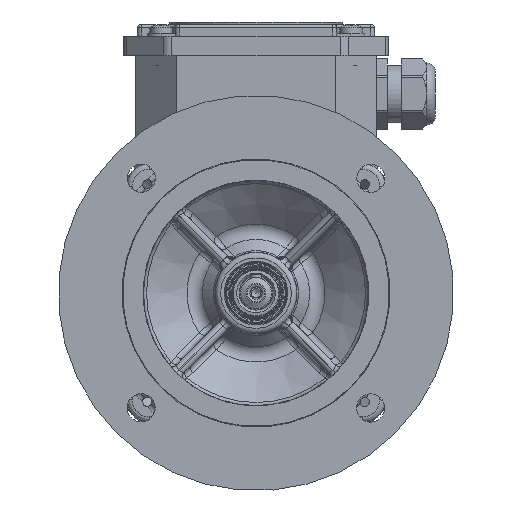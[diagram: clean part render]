
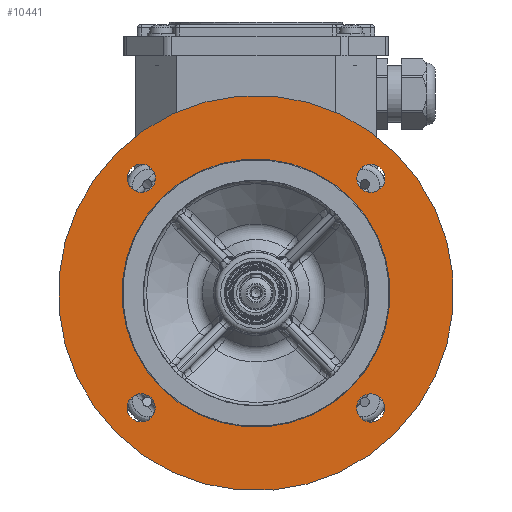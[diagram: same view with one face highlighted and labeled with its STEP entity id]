
A CAD part, front view. The second image highlights one B-rep face of the part: STEP entity #10441.
In plain terms, the highlighted planar face has unit normal (0, -1, 0).
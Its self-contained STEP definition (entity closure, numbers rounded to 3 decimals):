
#5977=FACE_BOUND('',#17310,.T.);
#5978=FACE_BOUND('',#17311,.T.);
#5979=FACE_BOUND('',#17312,.T.);
#5980=FACE_BOUND('',#17313,.T.);
#5981=FACE_BOUND('',#17314,.T.);
#5982=FACE_BOUND('',#17315,.T.);
#10441=ADVANCED_FACE('',(#5977,#5978,#5979,#5980,#5981,#5982),#12485,.T.);
#12485=PLANE('',#57015);
#17310=EDGE_LOOP('',(#27722));
#17311=EDGE_LOOP('',(#27723));
#17312=EDGE_LOOP('',(#27724));
#17313=EDGE_LOOP('',(#27725));
#17314=EDGE_LOOP('',(#27726));
#17315=EDGE_LOOP('',(#27727));
#27722=ORIENTED_EDGE('',*,*,#42033,.F.);
#27723=ORIENTED_EDGE('',*,*,#42034,.F.);
#27724=ORIENTED_EDGE('',*,*,#42035,.F.);
#27725=ORIENTED_EDGE('',*,*,#42036,.F.);
#27726=ORIENTED_EDGE('',*,*,#42037,.T.);
#27727=ORIENTED_EDGE('',*,*,#42038,.T.);
#35922=VERTEX_POINT('',#85747);
#35923=VERTEX_POINT('',#85749);
#35924=VERTEX_POINT('',#85751);
#35925=VERTEX_POINT('',#85753);
#35926=VERTEX_POINT('',#85755);
#35927=VERTEX_POINT('',#85757);
#42033=EDGE_CURVE('',#35922,#35922,#52163,.T.);
#42034=EDGE_CURVE('',#35923,#35923,#52164,.T.);
#42035=EDGE_CURVE('',#35924,#35924,#52165,.T.);
#42036=EDGE_CURVE('',#35925,#35925,#52166,.T.);
#42037=EDGE_CURVE('',#35926,#35926,#52167,.T.);
#42038=EDGE_CURVE('',#35927,#35927,#52168,.T.);
#52163=CIRCLE('',#57009,5.);
#52164=CIRCLE('',#57010,5.);
#52165=CIRCLE('',#57011,5.);
#52166=CIRCLE('',#57012,5.);
#52167=CIRCLE('',#57013,47.5);
#52168=CIRCLE('',#57014,70.);
#57009=AXIS2_PLACEMENT_3D('',#85746,#67525,#67526);
#57010=AXIS2_PLACEMENT_3D('',#85748,#67527,#67528);
#57011=AXIS2_PLACEMENT_3D('',#85750,#67529,#67530);
#57012=AXIS2_PLACEMENT_3D('',#85752,#67531,#67532);
#57013=AXIS2_PLACEMENT_3D('',#85754,#67533,#67534);
#57014=AXIS2_PLACEMENT_3D('',#85756,#67535,#67536);
#57015=AXIS2_PLACEMENT_3D('',#85758,#67537,#67538);
#67525=DIRECTION('',(0.,-1.,0.));
#67526=DIRECTION('',(0.707,0.,-0.708));
#67527=DIRECTION('',(0.,-1.,0.));
#67528=DIRECTION('',(0.708,0.,0.707));
#67529=DIRECTION('',(0.,-1.,0.));
#67530=DIRECTION('',(-0.707,0.,0.708));
#67531=DIRECTION('',(0.,-1.,0.));
#67532=DIRECTION('',(-0.708,0.,-0.707));
#67533=DIRECTION('',(0.,1.,0.));
#67534=DIRECTION('',(0.707,0.,-0.708));
#67535=DIRECTION('',(0.,-1.,0.));
#67536=DIRECTION('',(0.707,0.,-0.708));
#67537=DIRECTION('',(0.,-1.,0.));
#67538=DIRECTION('',(-0.707,0.,0.708));
#85746=CARTESIAN_POINT('',(40.683,-42.5,40.634));
#85747=CARTESIAN_POINT('',(44.217,-42.5,37.096));
#85748=CARTESIAN_POINT('',(-40.634,-42.5,40.683));
#85749=CARTESIAN_POINT('',(-37.096,-42.5,44.217));
#85750=CARTESIAN_POINT('',(-40.683,-42.5,-40.634));
#85751=CARTESIAN_POINT('',(-44.217,-42.5,-37.096));
#85752=CARTESIAN_POINT('',(40.634,-42.5,-40.683));
#85753=CARTESIAN_POINT('',(37.096,-42.5,-44.217));
#85754=CARTESIAN_POINT('',(0.,-42.5,0.));
#85755=CARTESIAN_POINT('',(33.567,-42.5,-33.608));
#85756=CARTESIAN_POINT('',(0.,-42.5,0.));
#85757=CARTESIAN_POINT('',(49.467,-42.5,-49.528));
#85758=CARTESIAN_POINT('',(0.,-42.5,0.));
